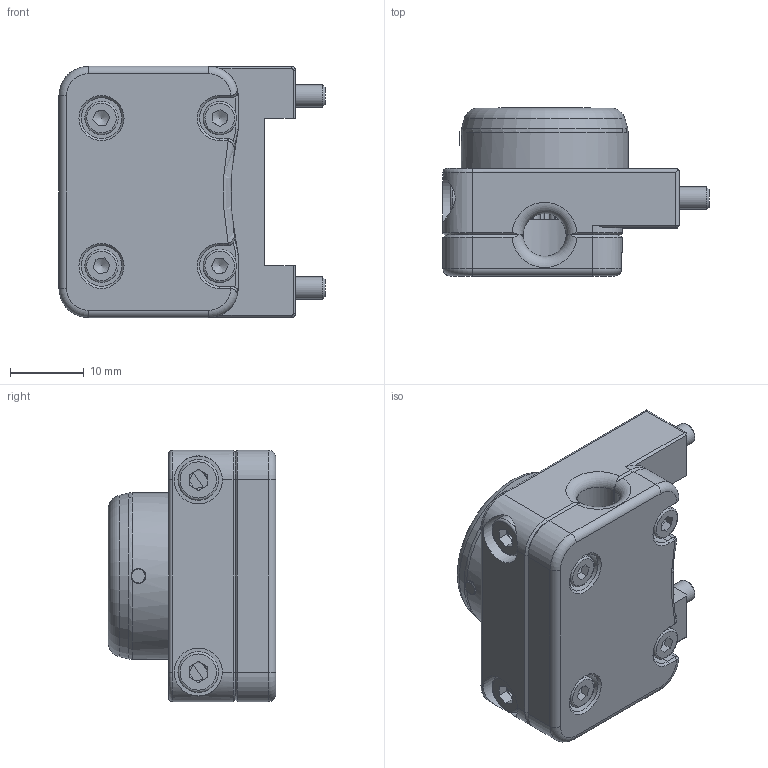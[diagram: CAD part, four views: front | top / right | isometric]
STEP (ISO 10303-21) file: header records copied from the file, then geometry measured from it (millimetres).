
FILE_DESCRIPTION(/* description */ (''),/* implementation_level */ '2;1');
FILE_NAME(/* name */ 'G-SEK100-U-1E12_.stp',/* time_stamp */ '2025-11-25T10:37:14+01:00',/* author */ ('ysplieth'),/* organization */ (''),/* preprocessor_version */ 'ST-DEVELOPER v20.1',/* originating_system */ 'Autodesk Inventor 2026',/* authorisation */ '');
FILE_SCHEMA (('AUTOMOTIVE_DESIGN { 1 0 10303 214 3 1 1 }'));
Length unit declared in the file: millimetre
Products named in the file (1): Bauteil6
Bounding box: 36 x 22.7 x 34 mm (x, y, z)
Volume: 13521.5 mm3; surface area: 10216.1 mm2
Topology: 1 solids, 9 shells, 438 faces, 1116 edges, 700 vertices
Faces by surface type: plane 198, cylinder 139, cone 67, torus 22, bspline 12
Full cylindrical faces by diameter (mm): 1 x12, 1.6 x12, 2 x17, 2.013 x4, 2.5 x4, 2.9 x4, 3 x2, 3.4 x2, 4.5 x4, 5.5 x4, 6.5 x2, 14 x1, 15.9 x1, 17 x1, 17.1 x1, 18 x1, 22.6 x1
Entity records: 15003 total; most frequent: CARTESIAN_POINT 4024, DIRECTION 2203, ORIENTED_EDGE 2182, EDGE_CURVE 1091, AXIS2_PLACEMENT_3D 821, VERTEX_POINT 700, LINE 561, VECTOR 561
